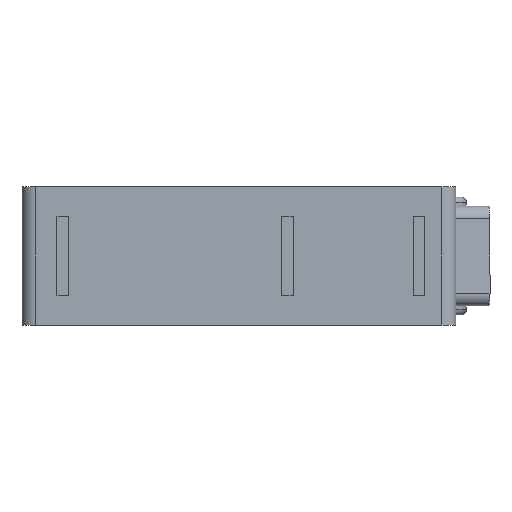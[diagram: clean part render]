
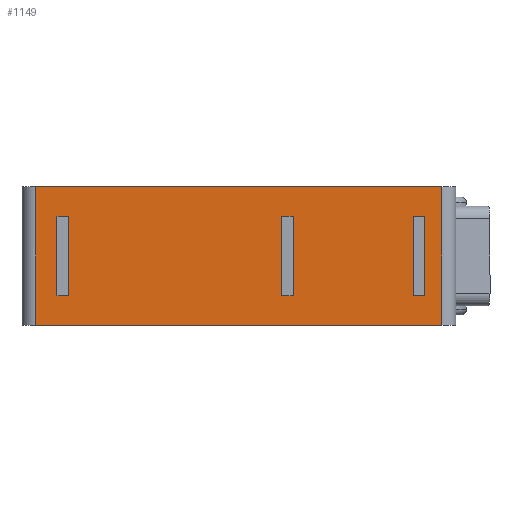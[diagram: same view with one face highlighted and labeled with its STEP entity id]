
A CAD part, front view. The second image highlights one B-rep face of the part: STEP entity #1149.
In plain terms, the highlighted planar face has unit normal (0, -1, 0).
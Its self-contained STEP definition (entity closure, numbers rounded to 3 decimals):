
#12 = VECTOR ( 'NONE', #2062, 1000. ) ;
#60 = LINE ( 'NONE', #3675, #12 ) ;
#110 = DIRECTION ( 'NONE',  ( -1., 0., 0. ) ) ;
#117 = DIRECTION ( 'NONE',  ( 0., 1., 0. ) ) ;
#122 = EDGE_CURVE ( 'NONE', #3746, #1198, #304, .T. ) ;
#142 = CARTESIAN_POINT ( 'NONE',  ( 9.284, 0., -3.175 ) ) ;
#166 = CARTESIAN_POINT ( 'NONE',  ( -9.284, 0., 3.175 ) ) ;
#180 = CARTESIAN_POINT ( 'NONE',  ( -7.811, 0., -1.816 ) ) ;
#184 = PLANE ( 'NONE',  #1270 ) ;
#198 = VECTOR ( 'NONE', #1936, 1000. ) ;
#209 = VECTOR ( 'NONE', #613, 1000. ) ;
#298 = VECTOR ( 'NONE', #4608, 1000. ) ;
#304 = LINE ( 'NONE', #4768, #298 ) ;
#323 = EDGE_CURVE ( 'NONE', #1015, #3003, #60, .T. ) ;
#524 = VERTEX_POINT ( 'NONE', #3324 ) ;
#536 = VECTOR ( 'NONE', #3962, 1000. ) ;
#613 = DIRECTION ( 'NONE',  ( 0., 0., -1. ) ) ;
#672 = ORIENTED_EDGE ( 'NONE', *, *, #2376, .F. ) ;
#689 = EDGE_CURVE ( 'NONE', #4610, #4909, #4292, .T. ) ;
#713 = LINE ( 'NONE', #2474, #2570 ) ;
#865 = CARTESIAN_POINT ( 'NONE',  ( -8.319, 0., 1.816 ) ) ;
#903 = LINE ( 'NONE', #4794, #209 ) ;
#925 = LINE ( 'NONE', #4658, #1042 ) ;
#972 = FACE_BOUND ( 'NONE', #2040, .T. ) ;
#1015 = VERTEX_POINT ( 'NONE', #1126 ) ;
#1042 = VECTOR ( 'NONE', #2413, 1000. ) ;
#1126 = CARTESIAN_POINT ( 'NONE',  ( 2.476, 0., 1.816 ) ) ;
#1136 = LINE ( 'NONE', #2084, #1914 ) ;
#1146 = VERTEX_POINT ( 'NONE', #180 ) ;
#1149 = ADVANCED_FACE ( 'NONE', ( #3499, #3448, #972, #3479 ), #184, .F. ) ;
#1198 = VERTEX_POINT ( 'NONE', #4190 ) ;
#1217 = VERTEX_POINT ( 'NONE', #4366 ) ;
#1270 = AXIS2_PLACEMENT_3D ( 'NONE', #166, #117, #110 ) ;
#1292 = LINE ( 'NONE', #2064, #3512 ) ;
#1386 = VECTOR ( 'NONE', #1541, 1000. ) ;
#1403 = EDGE_CURVE ( 'NONE', #2710, #1146, #2968, .T. ) ;
#1412 = VERTEX_POINT ( 'NONE', #3070 ) ;
#1431 = LINE ( 'NONE', #1498, #1386 ) ;
#1489 = CARTESIAN_POINT ( 'NONE',  ( -9.284, 0., 3.175 ) ) ;
#1498 = CARTESIAN_POINT ( 'NONE',  ( -8.319, 0., 1.816 ) ) ;
#1541 = DIRECTION ( 'NONE',  ( -1., 0., 0. ) ) ;
#1549 = VECTOR ( 'NONE', #3600, 1000. ) ;
#1683 = EDGE_CURVE ( 'NONE', #1217, #4610, #713, .T. ) ;
#1831 = LINE ( 'NONE', #2896, #3968 ) ;
#1847 = EDGE_CURVE ( 'NONE', #3003, #524, #2374, .T. ) ;
#1914 = VECTOR ( 'NONE', #2101, 1000. ) ;
#1936 = DIRECTION ( 'NONE',  ( 0., 0., -1. ) ) ;
#1965 = CARTESIAN_POINT ( 'NONE',  ( 9.284, 0., 3.175 ) ) ;
#2001 = CARTESIAN_POINT ( 'NONE',  ( 2.477, 0., -1.816 ) ) ;
#2040 = EDGE_LOOP ( 'NONE', ( #3836, #3861, #3864, #3869 ) ) ;
#2044 = EDGE_CURVE ( 'NONE', #1217, #1412, #1136, .T. ) ;
#2062 = DIRECTION ( 'NONE',  ( 0., 0., -1. ) ) ;
#2063 = EDGE_LOOP ( 'NONE', ( #3778, #672, #3623, #3786 ) ) ;
#2064 = CARTESIAN_POINT ( 'NONE',  ( -8.319, 0., -1.816 ) ) ;
#2084 = CARTESIAN_POINT ( 'NONE',  ( 8.496, 0., 1.816 ) ) ;
#2101 = DIRECTION ( 'NONE',  ( 0., 0., -1. ) ) ;
#2198 = EDGE_LOOP ( 'NONE', ( #3874, #3886, #3890, #3891 ) ) ;
#2221 = EDGE_CURVE ( 'NONE', #4540, #3973, #3147, .T. ) ;
#2233 = EDGE_LOOP ( 'NONE', ( #3790, #3793, #3827, #3832 ) ) ;
#2234 = DIRECTION ( 'NONE',  ( -1., 0., 0. ) ) ;
#2333 = VECTOR ( 'NONE', #3477, 1000. ) ;
#2374 = LINE ( 'NONE', #3761, #2333 ) ;
#2376 = EDGE_CURVE ( 'NONE', #2710, #3746, #1431, .T. ) ;
#2413 = DIRECTION ( 'NONE',  ( 1., 0., 0. ) ) ;
#2456 = LINE ( 'NONE', #2640, #1549 ) ;
#2474 = CARTESIAN_POINT ( 'NONE',  ( 7.988, 0., 1.816 ) ) ;
#2480 = CARTESIAN_POINT ( 'NONE',  ( 1.969, 0., 1.816 ) ) ;
#2499 = VERTEX_POINT ( 'NONE', #142 ) ;
#2531 = CARTESIAN_POINT ( 'NONE',  ( -7.811, 0., 1.816 ) ) ;
#2565 = CARTESIAN_POINT ( 'NONE',  ( -9.284, 0., -3.175 ) ) ;
#2570 = VECTOR ( 'NONE', #3598, 1000. ) ;
#2640 = CARTESIAN_POINT ( 'NONE',  ( 7.988, 0., -1.816 ) ) ;
#2710 = VERTEX_POINT ( 'NONE', #4915 ) ;
#2896 = CARTESIAN_POINT ( 'NONE',  ( -9.284, 0., 3.175 ) ) ;
#2968 = LINE ( 'NONE', #2531, #4010 ) ;
#3002 = EDGE_CURVE ( 'NONE', #4801, #2499, #3616, .T. ) ;
#3003 = VERTEX_POINT ( 'NONE', #2001 ) ;
#3065 = CARTESIAN_POINT ( 'NONE',  ( 1.969, 0., 1.816 ) ) ;
#3070 = CARTESIAN_POINT ( 'NONE',  ( 8.496, 0., -1.816 ) ) ;
#3147 = LINE ( 'NONE', #4432, #536 ) ;
#3157 = EDGE_CURVE ( 'NONE', #1412, #4909, #2456, .T. ) ;
#3192 = DIRECTION ( 'NONE',  ( -1., 0., 0. ) ) ;
#3324 = CARTESIAN_POINT ( 'NONE',  ( 1.968, 0., -1.816 ) ) ;
#3448 = FACE_BOUND ( 'NONE', #2233, .T. ) ;
#3477 = DIRECTION ( 'NONE',  ( -1., 0., 0. ) ) ;
#3479 = FACE_OUTER_BOUND ( 'NONE', #2198, .T. ) ;
#3499 = FACE_BOUND ( 'NONE', #2063, .T. ) ;
#3512 = VECTOR ( 'NONE', #2234, 1000. ) ;
#3589 = CARTESIAN_POINT ( 'NONE',  ( 7.988, 0., 1.816 ) ) ;
#3598 = DIRECTION ( 'NONE',  ( -1., 0., 0. ) ) ;
#3600 = DIRECTION ( 'NONE',  ( -1., 0., 0. ) ) ;
#3611 = EDGE_CURVE ( 'NONE', #3973, #2499, #925, .T. ) ;
#3616 = LINE ( 'NONE', #1965, #198 ) ;
#3623 = ORIENTED_EDGE ( 'NONE', *, *, #1403, .T. ) ;
#3625 = CARTESIAN_POINT ( 'NONE',  ( 7.988, 0., 1.816 ) ) ;
#3675 = CARTESIAN_POINT ( 'NONE',  ( 2.477, 0., 1.816 ) ) ;
#3746 = VERTEX_POINT ( 'NONE', #865 ) ;
#3761 = CARTESIAN_POINT ( 'NONE',  ( 1.969, 0., -1.816 ) ) ;
#3774 = DIRECTION ( 'NONE',  ( 0., 0., -1. ) ) ;
#3778 = ORIENTED_EDGE ( 'NONE', *, *, #122, .F. ) ;
#3786 = ORIENTED_EDGE ( 'NONE', *, *, #4246, .T. ) ;
#3790 = ORIENTED_EDGE ( 'NONE', *, *, #4096, .F. ) ;
#3793 = ORIENTED_EDGE ( 'NONE', *, *, #4662, .F. ) ;
#3827 = ORIENTED_EDGE ( 'NONE', *, *, #323, .T. ) ;
#3832 = ORIENTED_EDGE ( 'NONE', *, *, #1847, .T. ) ;
#3836 = ORIENTED_EDGE ( 'NONE', *, *, #689, .F. ) ;
#3861 = ORIENTED_EDGE ( 'NONE', *, *, #1683, .F. ) ;
#3862 = VECTOR ( 'NONE', #3192, 1000. ) ;
#3864 = ORIENTED_EDGE ( 'NONE', *, *, #2044, .T. ) ;
#3867 = LINE ( 'NONE', #3065, #3862 ) ;
#3869 = ORIENTED_EDGE ( 'NONE', *, *, #3157, .T. ) ;
#3874 = ORIENTED_EDGE ( 'NONE', *, *, #3611, .T. ) ;
#3886 = ORIENTED_EDGE ( 'NONE', *, *, #3002, .F. ) ;
#3890 = ORIENTED_EDGE ( 'NONE', *, *, #4761, .F. ) ;
#3891 = ORIENTED_EDGE ( 'NONE', *, *, #2221, .T. ) ;
#3962 = DIRECTION ( 'NONE',  ( 0., 0., -1. ) ) ;
#3968 = VECTOR ( 'NONE', #4329, 1000. ) ;
#3973 = VERTEX_POINT ( 'NONE', #2565 ) ;
#4010 = VECTOR ( 'NONE', #4430, 1000. ) ;
#4096 = EDGE_CURVE ( 'NONE', #4230, #524, #903, .T. ) ;
#4190 = CARTESIAN_POINT ( 'NONE',  ( -8.319, 0., -1.816 ) ) ;
#4230 = VERTEX_POINT ( 'NONE', #2480 ) ;
#4246 = EDGE_CURVE ( 'NONE', #1146, #1198, #1292, .T. ) ;
#4292 = LINE ( 'NONE', #3589, #4914 ) ;
#4329 = DIRECTION ( 'NONE',  ( 1., 0., 0. ) ) ;
#4366 = CARTESIAN_POINT ( 'NONE',  ( 8.496, 0., 1.816 ) ) ;
#4389 = CARTESIAN_POINT ( 'NONE',  ( 9.284, 0., 3.175 ) ) ;
#4430 = DIRECTION ( 'NONE',  ( 0., 0., -1. ) ) ;
#4432 = CARTESIAN_POINT ( 'NONE',  ( -9.284, 0., 3.175 ) ) ;
#4540 = VERTEX_POINT ( 'NONE', #1489 ) ;
#4608 = DIRECTION ( 'NONE',  ( 0., 0., -1. ) ) ;
#4610 = VERTEX_POINT ( 'NONE', #3625 ) ;
#4658 = CARTESIAN_POINT ( 'NONE',  ( -9.284, 0., -3.175 ) ) ;
#4662 = EDGE_CURVE ( 'NONE', #1015, #4230, #3867, .T. ) ;
#4761 = EDGE_CURVE ( 'NONE', #4540, #4801, #1831, .T. ) ;
#4768 = CARTESIAN_POINT ( 'NONE',  ( -8.319, 0., 1.816 ) ) ;
#4778 = CARTESIAN_POINT ( 'NONE',  ( 7.988, 0., -1.816 ) ) ;
#4794 = CARTESIAN_POINT ( 'NONE',  ( 1.969, 0., 1.816 ) ) ;
#4801 = VERTEX_POINT ( 'NONE', #4389 ) ;
#4909 = VERTEX_POINT ( 'NONE', #4778 ) ;
#4914 = VECTOR ( 'NONE', #3774, 1000. ) ;
#4915 = CARTESIAN_POINT ( 'NONE',  ( -7.811, 0., 1.816 ) ) ;
